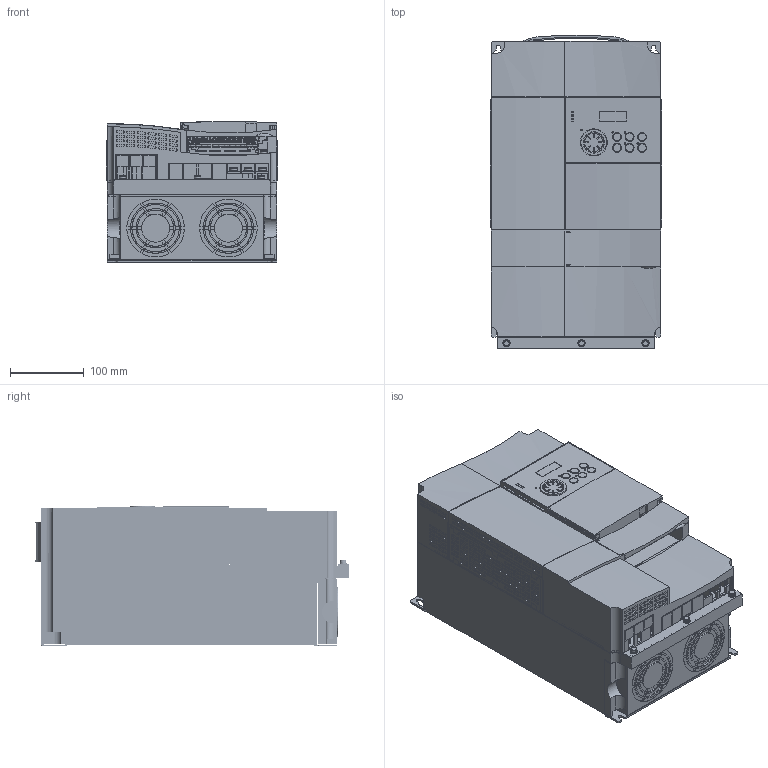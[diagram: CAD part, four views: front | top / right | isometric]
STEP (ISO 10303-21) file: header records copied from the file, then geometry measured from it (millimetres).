
FILE_DESCRIPTION((''),'2;1');
FILE_NAME('VFAS3J_J5_ASM','2019-09-10T09:48:08',('sesa57331'),('Schneider-Electric'),'CREO PARAMETRIC BY PTC INC, 2018300','CREO PARAMETRIC BY PTC INC, 2018300','');
FILE_SCHEMA(('CONFIG_CONTROL_DESIGN'));
Products named in the file (17): VFAS3J_DRIVE_J5; VFAS3J_TOP_COVER_J3-5; VFAS3J_DISPLAY; VFAS3J_CTR_TERM; VFAS3J_CTR_TERM_SHORT_BAR; VFAS3J_CTR_TERM_SCREW_M3-1; VFAS3J_CTR_TERM_SCREW_M3-2; VFAS3J_CTR_TERM_FL_COVER; VFAS3J_CTR_TERM_ASM; VFAS3J_DISPLAY_COVER; TERM_19P5MM_M6_SHORT_BAR; TERM_19P5MM_M6; SCREW_M5X12; VFAS3J_POWER_TERM_COVER_J5; VFAS3J_POWER_TERM_TRAP; VFAS3J_POWER_TERM_COVER_J5_ASM; VFAS3J_J5_ASM
Assembly tree (53 placements, depth 3):
  VFAS3J_J5_ASM
    VFAS3J_DRIVE_J5
    VFAS3J_TOP_COVER_J3-5
    VFAS3J_DISPLAY
    VFAS3J_CTR_TERM_ASM
      VFAS3J_CTR_TERM
      VFAS3J_CTR_TERM_SHORT_BAR  x2
      VFAS3J_CTR_TERM_SCREW_M3-1  x23
      VFAS3J_CTR_TERM_SCREW_M3-2  x3
      VFAS3J_CTR_TERM_FL_COVER
    VFAS3J_DISPLAY_COVER
    TERM_19P5MM_M6_SHORT_BAR
    TERM_19P5MM_M6  x10
    SCREW_M5X12  x4
    VFAS3J_POWER_TERM_COVER_J5_ASM
      VFAS3J_POWER_TERM_COVER_J5
      VFAS3J_POWER_TERM_TRAP
Bounding box: 232 x 424.39 x 190.78 mm (x, y, z)
Volume: 10244809.9 mm3; surface area: 1192367.2 mm2
Topology: 51 solids, 55 shells, 5473 faces, 14588 edges, 9607 vertices
Faces by surface type: plane 4070, cylinder 1275, torus 108, cone 12, sphere 4, bspline 4
Entity records: 155575 total; most frequent: CARTESIAN_POINT 27900, ORIENTED_EDGE 26820, DIRECTION 25768, EDGE_CURVE 13410, VECTOR 10834, LINE 10834, VERTEX_POINT 8849, AXIS2_PLACEMENT_3D 7467
